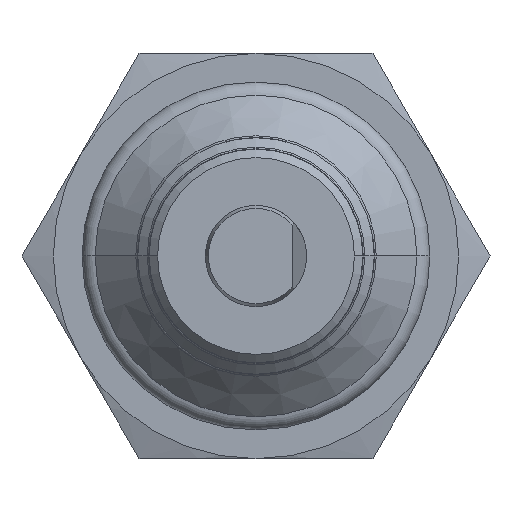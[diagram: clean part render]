
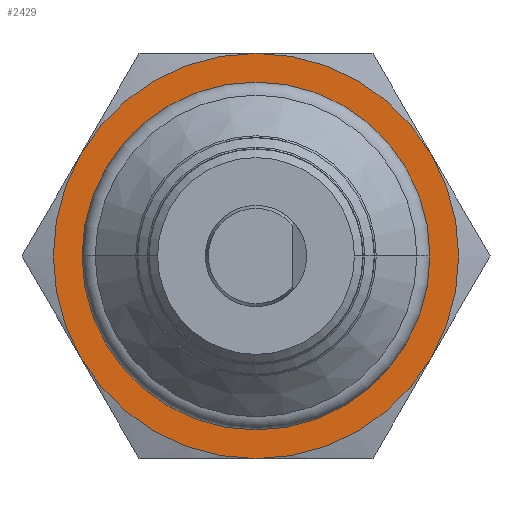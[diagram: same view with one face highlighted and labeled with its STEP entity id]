
A CAD part, front view. The second image highlights one B-rep face of the part: STEP entity #2429.
In plain terms, the highlighted planar face has unit normal (0, -1, 0).
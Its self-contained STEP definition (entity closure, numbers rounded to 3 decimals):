
#127=CARTESIAN_POINT('',(0.,27.5,0.));
#128=DIRECTION('',(0.,-1.,0.));
#129=DIRECTION('',(-1.,0.,0.));
#130=AXIS2_PLACEMENT_3D('',#127,#128,#129);
#135=CARTESIAN_POINT('',(0.,27.5,0.));
#136=DIRECTION('',(0.,-1.,0.));
#137=DIRECTION('',(1.,0.,0.));
#138=AXIS2_PLACEMENT_3D('',#135,#136,#137);
#143=CARTESIAN_POINT('',(0.,27.5,0.));
#144=DIRECTION('',(0.,-1.,0.));
#145=DIRECTION('',(1.,0.,0.));
#146=AXIS2_PLACEMENT_3D('',#143,#144,#145);
#518=CARTESIAN_POINT('',(0.,27.5,0.));
#519=DIRECTION('',(0.,1.,0.));
#520=DIRECTION('',(1.,0.,0.));
#521=AXIS2_PLACEMENT_3D('',#518,#519,#520);
#2013=CARTESIAN_POINT('',(12.,27.5,0.));
#2015=VERTEX_POINT('',#2013);
#2041=CARTESIAN_POINT('',(-12.,27.5,0.));
#2043=VERTEX_POINT('',#2041);
#2045=CARTESIAN_POINT('',(8.8,27.5,0.));
#2046=CARTESIAN_POINT('',(-8.8,27.5,0.));
#2047=VERTEX_POINT('',#2045);
#2048=VERTEX_POINT('',#2046);
#2412=CARTESIAN_POINT('',(0.,27.5,0.));
#2413=DIRECTION('',(0.,-1.,0.));
#2414=DIRECTION('',(-1.,0.,0.));
#2415=AXIS2_PLACEMENT_3D('',#2412,#2413,#2414);
#2416=PLANE('',#2415);
#2418=ORIENTED_EDGE('',*,*,#2417,.F.);
#2420=ORIENTED_EDGE('',*,*,#2419,.T.);
#2421=EDGE_LOOP('',(#2418,#2420));
#2422=FACE_OUTER_BOUND('',#2421,.F.);
#2424=ORIENTED_EDGE('',*,*,#2423,.T.);
#2426=ORIENTED_EDGE('',*,*,#2425,.T.);
#2427=EDGE_LOOP('',(#2424,#2426));
#2428=FACE_BOUND('',#2427,.F.);
#131=CIRCLE('',#130,8.8);
#139=CIRCLE('',#138,8.8);
#147=CIRCLE('',#146,12.);
#522=CIRCLE('',#521,12.);
#2417=EDGE_CURVE('',#2015,#2043,#147,.T.);
#2419=EDGE_CURVE('',#2015,#2043,#522,.T.);
#2423=EDGE_CURVE('',#2048,#2047,#131,.T.);
#2425=EDGE_CURVE('',#2047,#2048,#139,.T.);
#2429=ADVANCED_FACE('',(#2422,#2428),#2416,.T.);
